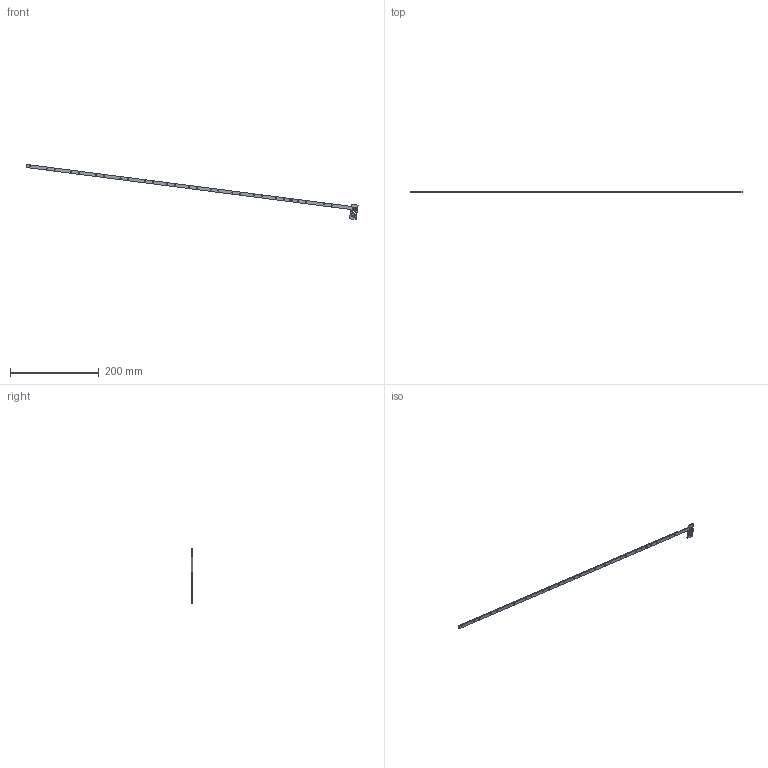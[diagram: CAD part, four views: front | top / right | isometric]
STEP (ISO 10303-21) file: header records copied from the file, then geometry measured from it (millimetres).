
FILE_DESCRIPTION((''),'2;1');
FILE_NAME('0000186954','2024-02-23T16:50:14',('Wyndorps'),(''),'CREO PARAMETRIC BY PTC INC, 2022484','CREO PARAMETRIC BY PTC INC, 2022484','');
FILE_SCHEMA(('CONFIG_CONTROL_DESIGN'));
Length unit declared in the file: millimetre
Products named in the file (1): 0000186954
Bounding box: 747.83 x 3 x 124.33 mm (x, y, z)
Volume: 16205.9 mm3; surface area: 16697.5 mm2
Topology: 1 solids, 1 shells, 152 faces, 450 edges, 300 vertices
Faces by surface type: plane 74, cylinder 54, extrusion 24
Entity records: 5405 total; most frequent: CARTESIAN_POINT 1135, ORIENTED_EDGE 900, DIRECTION 790, EDGE_CURVE 450, VECTOR 318, VERTEX_POINT 300, LINE 294, AXIS2_PLACEMENT_3D 236
